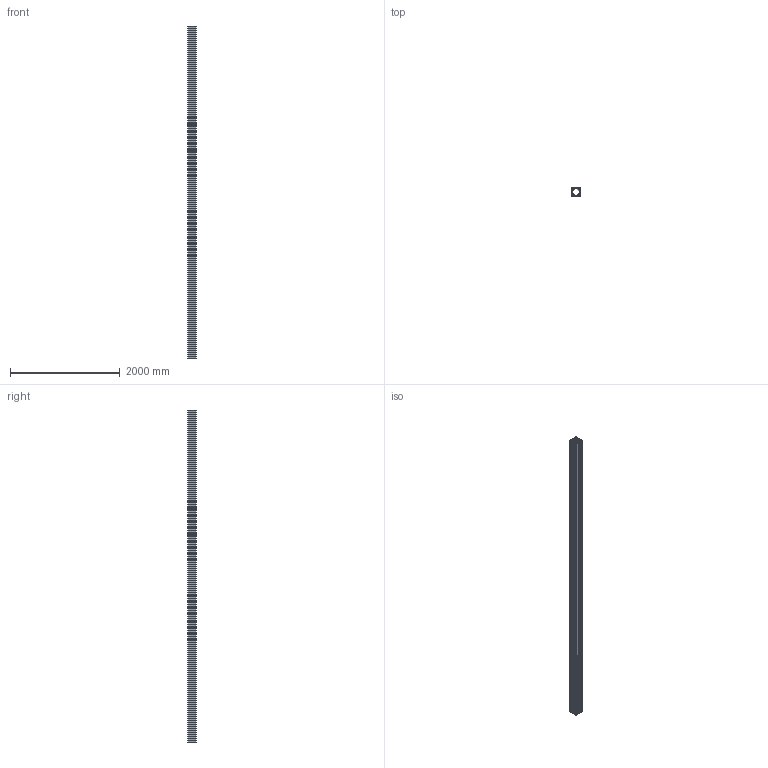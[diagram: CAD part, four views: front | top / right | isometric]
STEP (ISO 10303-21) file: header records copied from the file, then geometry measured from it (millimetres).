
FILE_DESCRIPTION (( 'STEP AP203' ), '1' );
FILE_NAME ('20210700_Profil 8 160x160.step', '2021-06-25T09:16:24', ( '' ), ( '' ), 'SwSTEP 2.0', 'SolidWorks 2021', '' );
FILE_SCHEMA (( 'CONFIG_CONTROL_DESIGN' ));
Length unit declared in the file: millimetre
Products named in the file (1): 20210700_Profil 8 160x160
Bounding box: 160 x 160 x 6060 mm (x, y, z)
Volume: 44691085.1 mm3; surface area: 15337733.6 mm2
Topology: 1 solids, 1 shells, 467 faces, 1395 edges, 930 vertices
Faces by surface type: cylinder 313, plane 154
Entity records: 16124 total; most frequent: DIRECTION 2957, CARTESIAN_POINT 2793, ORIENTED_EDGE 2790, EDGE_CURVE 1395, AXIS2_PLACEMENT_3D 1094, VERTEX_POINT 930, VECTOR 769, LINE 769
